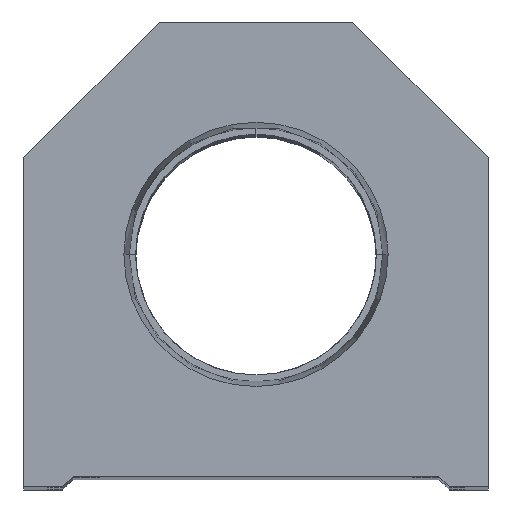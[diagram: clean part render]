
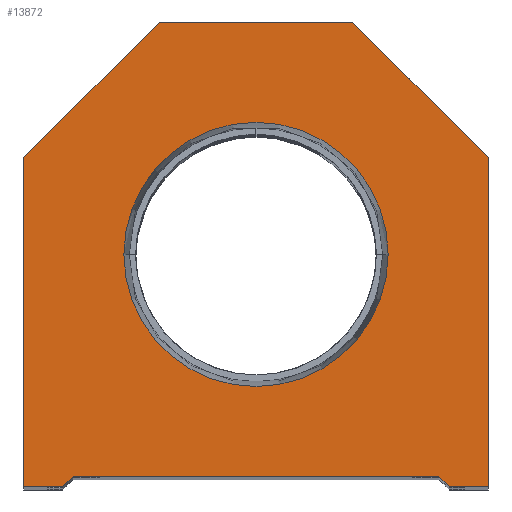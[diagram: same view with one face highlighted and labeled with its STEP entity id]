
A CAD part, top view. The second image highlights one B-rep face of the part: STEP entity #13872.
In plain terms, the highlighted planar face has unit normal (0, 0, 1).
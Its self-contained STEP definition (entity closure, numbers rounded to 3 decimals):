
#24 = DIRECTION ( 'NONE',  ( 0.707, 0.707, 0. ) ) ;
#61 = DIRECTION ( 'NONE',  ( -0.707, -0.707, 0. ) ) ;
#133 = EDGE_LOOP ( 'NONE', ( #1364, #10394, #12116, #9911, #17392, #6245, #7333, #15021, #17462, #11851 ) ) ;
#264 = DIRECTION ( 'NONE',  ( 1., 0., 0. ) ) ;
#362 = LINE ( 'NONE', #6106, #13686 ) ;
#462 = DIRECTION ( 'NONE',  ( 0., 0., 1. ) ) ;
#471 = VERTEX_POINT ( 'NONE', #17069 ) ;
#485 = DIRECTION ( 'NONE',  ( 0., -1., 0. ) ) ;
#1256 = VERTEX_POINT ( 'NONE', #13304 ) ;
#1364 = ORIENTED_EDGE ( 'NONE', *, *, #15025, .T. ) ;
#1702 = CARTESIAN_POINT ( 'NONE',  ( 0., 22.25, 0. ) ) ;
#1829 = LINE ( 'NONE', #17257, #2557 ) ;
#1903 = CARTESIAN_POINT ( 'NONE',  ( -18.5, 0., 0. ) ) ;
#2072 = VERTEX_POINT ( 'NONE', #6464 ) ;
#2264 = EDGE_CURVE ( 'NONE', #2072, #7341, #13576, .T. ) ;
#2454 = CARTESIAN_POINT ( 'NONE',  ( 22.25, 0., 0. ) ) ;
#2513 = LINE ( 'NONE', #18485, #11348 ) ;
#2557 = VECTOR ( 'NONE', #14410, 1000. ) ;
#3510 = CIRCLE ( 'NONE', #16514, 12.647 ) ;
#4116 = EDGE_CURVE ( 'NONE', #17044, #2072, #1829, .T. ) ;
#4288 = DIRECTION ( 'NONE',  ( -0.707, 0.707, 0. ) ) ;
#4406 = FACE_BOUND ( 'NONE', #16443, .T. ) ;
#4749 = EDGE_CURVE ( 'NONE', #7123, #7074, #2513, .T. ) ;
#5060 = AXIS2_PLACEMENT_3D ( 'NONE', #1702, #462, #8865 ) ;
#5193 = CARTESIAN_POINT ( 'NONE',  ( 0., 22.25, 0. ) ) ;
#5912 = PLANE ( 'NONE',  #14276 ) ;
#6106 = CARTESIAN_POINT ( 'NONE',  ( -17.5, 0., 0. ) ) ;
#6196 = EDGE_CURVE ( 'NONE', #8313, #471, #3510, .T. ) ;
#6224 = VECTOR ( 'NONE', #14197, 1000. ) ;
#6245 = ORIENTED_EDGE ( 'NONE', *, *, #17593, .T. ) ;
#6464 = CARTESIAN_POINT ( 'NONE',  ( 18.5, 0., 0. ) ) ;
#6667 = LINE ( 'NONE', #2454, #6224 ) ;
#7033 = CARTESIAN_POINT ( 'NONE',  ( -9.25, 44.5, 0. ) ) ;
#7051 = VERTEX_POINT ( 'NONE', #17612 ) ;
#7074 = VERTEX_POINT ( 'NONE', #15218 ) ;
#7123 = VERTEX_POINT ( 'NONE', #7033 ) ;
#7144 = VERTEX_POINT ( 'NONE', #13899 ) ;
#7323 = LINE ( 'NONE', #8480, #15170 ) ;
#7333 = ORIENTED_EDGE ( 'NONE', *, *, #13701, .T. ) ;
#7341 = VERTEX_POINT ( 'NONE', #7702 ) ;
#7702 = CARTESIAN_POINT ( 'NONE',  ( 22.25, 0., 0. ) ) ;
#8313 = VERTEX_POINT ( 'NONE', #9261 ) ;
#8359 = EDGE_CURVE ( 'NONE', #7144, #7123, #8927, .T. ) ;
#8480 = CARTESIAN_POINT ( 'NONE',  ( -17.5, 1., 0. ) ) ;
#8836 = ORIENTED_EDGE ( 'NONE', *, *, #18434, .F. ) ;
#8865 = DIRECTION ( 'NONE',  ( 1., 0., 0. ) ) ;
#8927 = LINE ( 'NONE', #18510, #11673 ) ;
#8931 = CARTESIAN_POINT ( 'NONE',  ( 17.5, 0., 0. ) ) ;
#9003 = VERTEX_POINT ( 'NONE', #9043 ) ;
#9043 = CARTESIAN_POINT ( 'NONE',  ( -17.5, 1., 0. ) ) ;
#9261 = CARTESIAN_POINT ( 'NONE',  ( -12.647, 22.25, 0. ) ) ;
#9911 = ORIENTED_EDGE ( 'NONE', *, *, #4116, .T. ) ;
#10394 = ORIENTED_EDGE ( 'NONE', *, *, #16079, .T. ) ;
#10779 = CARTESIAN_POINT ( 'NONE',  ( -22.25, 0., 0. ) ) ;
#10916 = VECTOR ( 'NONE', #4288, 1000. ) ;
#11329 = VECTOR ( 'NONE', #485, 1000. ) ;
#11348 = VECTOR ( 'NONE', #61, 1000. ) ;
#11673 = VECTOR ( 'NONE', #16950, 1000. ) ;
#11851 = ORIENTED_EDGE ( 'NONE', *, *, #16475, .T. ) ;
#12116 = ORIENTED_EDGE ( 'NONE', *, *, #13938, .T. ) ;
#12471 = CARTESIAN_POINT ( 'NONE',  ( 17.5, 1., 0. ) ) ;
#12710 = VECTOR ( 'NONE', #15093, 1000. ) ;
#13123 = CARTESIAN_POINT ( 'NONE',  ( 0., 0., 0. ) ) ;
#13150 = ORIENTED_EDGE ( 'NONE', *, *, #6196, .F. ) ;
#13304 = CARTESIAN_POINT ( 'NONE',  ( 22.25, 31.5, 0. ) ) ;
#13576 = LINE ( 'NONE', #8931, #12710 ) ;
#13686 = VECTOR ( 'NONE', #14931, 1000. ) ;
#13701 = EDGE_CURVE ( 'NONE', #1256, #7144, #18668, .T. ) ;
#13734 = DIRECTION ( 'NONE',  ( 0., 0., 1. ) ) ;
#13872 = ADVANCED_FACE ( 'NONE', ( #4406, #14644 ), #5912, .T. ) ;
#13899 = CARTESIAN_POINT ( 'NONE',  ( 9.25, 44.5, 0. ) ) ;
#13938 = EDGE_CURVE ( 'NONE', #9003, #17044, #7323, .T. ) ;
#14197 = DIRECTION ( 'NONE',  ( 0., 1., 0. ) ) ;
#14276 = AXIS2_PLACEMENT_3D ( 'NONE', #13123, #17214, #264 ) ;
#14397 = LINE ( 'NONE', #18532, #17349 ) ;
#14410 = DIRECTION ( 'NONE',  ( 0.707, -0.707, 0. ) ) ;
#14636 = VERTEX_POINT ( 'NONE', #1903 ) ;
#14644 = FACE_OUTER_BOUND ( 'NONE', #133, .T. ) ;
#14931 = DIRECTION ( 'NONE',  ( 1., 0., 0. ) ) ;
#15021 = ORIENTED_EDGE ( 'NONE', *, *, #8359, .T. ) ;
#15025 = EDGE_CURVE ( 'NONE', #7051, #14636, #362, .T. ) ;
#15066 = DIRECTION ( 'NONE',  ( 1., 0., 0. ) ) ;
#15093 = DIRECTION ( 'NONE',  ( 1., 0., 0. ) ) ;
#15170 = VECTOR ( 'NONE', #15774, 1000. ) ;
#15218 = CARTESIAN_POINT ( 'NONE',  ( -22.25, 31.5, 0. ) ) ;
#15774 = DIRECTION ( 'NONE',  ( 1., 0., 0. ) ) ;
#16079 = EDGE_CURVE ( 'NONE', #14636, #9003, #14397, .T. ) ;
#16443 = EDGE_LOOP ( 'NONE', ( #8836, #13150 ) ) ;
#16475 = EDGE_CURVE ( 'NONE', #7074, #7051, #17692, .T. ) ;
#16514 = AXIS2_PLACEMENT_3D ( 'NONE', #5193, #13734, #15066 ) ;
#16950 = DIRECTION ( 'NONE',  ( -1., 0., 0. ) ) ;
#17044 = VERTEX_POINT ( 'NONE', #12471 ) ;
#17069 = CARTESIAN_POINT ( 'NONE',  ( 12.647, 22.25, 0. ) ) ;
#17214 = DIRECTION ( 'NONE',  ( 0., 0., 1. ) ) ;
#17257 = CARTESIAN_POINT ( 'NONE',  ( 9.25, 9.25, 0. ) ) ;
#17282 = CARTESIAN_POINT ( 'NONE',  ( 22.25, 31.5, 0. ) ) ;
#17349 = VECTOR ( 'NONE', #24, 1000. ) ;
#17392 = ORIENTED_EDGE ( 'NONE', *, *, #2264, .T. ) ;
#17462 = ORIENTED_EDGE ( 'NONE', *, *, #4749, .T. ) ;
#17593 = EDGE_CURVE ( 'NONE', #7341, #1256, #6667, .T. ) ;
#17612 = CARTESIAN_POINT ( 'NONE',  ( -22.25, 0., 0. ) ) ;
#17692 = LINE ( 'NONE', #10779, #11329 ) ;
#18434 = EDGE_CURVE ( 'NONE', #471, #8313, #18650, .T. ) ;
#18485 = CARTESIAN_POINT ( 'NONE',  ( -22.25, 31.5, 0. ) ) ;
#18510 = CARTESIAN_POINT ( 'NONE',  ( 9.25, 44.5, 0. ) ) ;
#18532 = CARTESIAN_POINT ( 'NONE',  ( -9.25, 9.25, 0. ) ) ;
#18650 = CIRCLE ( 'NONE', #5060, 12.647 ) ;
#18668 = LINE ( 'NONE', #17282, #10916 ) ;
